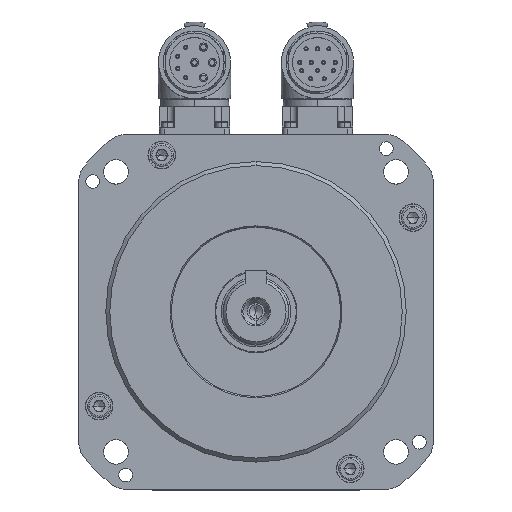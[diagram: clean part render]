
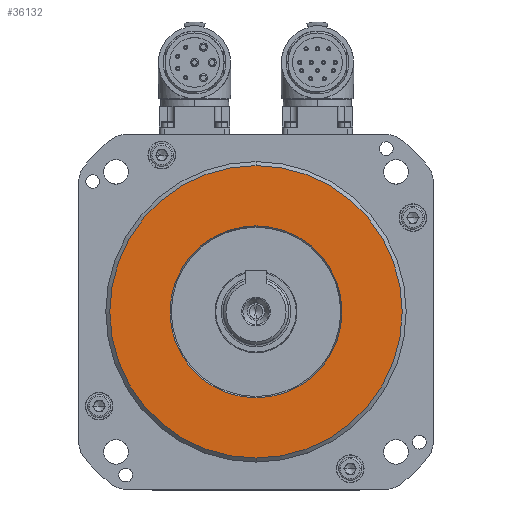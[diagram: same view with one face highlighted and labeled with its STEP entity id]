
A CAD part, top view. The second image highlights one B-rep face of the part: STEP entity #36132.
In plain terms, the highlighted planar face has unit normal (0, 0, 1).
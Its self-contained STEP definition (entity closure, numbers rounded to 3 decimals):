
#4061 = AXIS2_PLACEMENT_3D ( 'NONE', #31635, #36255, #12400 ) ;
#6401 = PLANE ( 'NONE',  #8891 ) ;
#8184 = EDGE_CURVE ( 'NONE', #49600, #24509, #43672, .T. ) ;
#8891 = AXIS2_PLACEMENT_3D ( 'NONE', #26286, #12113, #40180 ) ;
#9537 = AXIS2_PLACEMENT_3D ( 'NONE', #17246, #50964, #17647 ) ;
#9632 = ORIENTED_EDGE ( 'NONE', *, *, #36917, .T. ) ;
#9707 = DIRECTION ( 'NONE',  ( 0., -1., 0. ) ) ;
#9792 = ORIENTED_EDGE ( 'NONE', *, *, #41366, .F. ) ;
#12113 = DIRECTION ( 'NONE',  ( 0., 0., 1. ) ) ;
#12400 = DIRECTION ( 'NONE',  ( 0., -1., 0. ) ) ;
#17246 = CARTESIAN_POINT ( 'NONE',  ( 0., 0., 66.8 ) ) ;
#17647 = DIRECTION ( 'NONE',  ( 0., -1., 0. ) ) ;
#18810 = DIRECTION ( 'NONE',  ( 0., 0., 1. ) ) ;
#24449 = CARTESIAN_POINT ( 'NONE',  ( 0., -31.481, 66.8 ) ) ;
#24509 = VERTEX_POINT ( 'NONE', #58649 ) ;
#26286 = CARTESIAN_POINT ( 'NONE',  ( 0., 0., 66.8 ) ) ;
#31035 = DIRECTION ( 'NONE',  ( 0., -1., 0. ) ) ;
#31635 = CARTESIAN_POINT ( 'NONE',  ( 0., 0., 66.8 ) ) ;
#33602 = CARTESIAN_POINT ( 'NONE',  ( 0., 0., 66.8 ) ) ;
#34183 = ORIENTED_EDGE ( 'NONE', *, *, #8184, .T. ) ;
#35141 = EDGE_LOOP ( 'NONE', ( #9792, #55901 ) ) ;
#36132 = ADVANCED_FACE ( 'NONE', ( #57239, #52703 ), #6401, .T. ) ;
#36255 = DIRECTION ( 'NONE',  ( 0., 0., 1. ) ) ;
#36917 = EDGE_CURVE ( 'NONE', #24509, #49600, #54170, .T. ) ;
#37181 = EDGE_LOOP ( 'NONE', ( #34183, #9632 ) ) ;
#39553 = CARTESIAN_POINT ( 'NONE',  ( 0., 53.54, 66.8 ) ) ;
#40180 = DIRECTION ( 'NONE',  ( 0., -1., 0. ) ) ;
#40688 = AXIS2_PLACEMENT_3D ( 'NONE', #44904, #59464, #31035 ) ;
#41366 = EDGE_CURVE ( 'NONE', #43056, #56901, #50834, .T. ) ;
#41598 = EDGE_CURVE ( 'NONE', #56901, #43056, #46276, .T. ) ;
#43056 = VERTEX_POINT ( 'NONE', #49288 ) ;
#43672 = CIRCLE ( 'NONE', #9537, 53.54 ) ;
#44904 = CARTESIAN_POINT ( 'NONE',  ( 0., 0., 66.8 ) ) ;
#46276 = CIRCLE ( 'NONE', #40688, 31.481 ) ;
#49288 = CARTESIAN_POINT ( 'NONE',  ( 0., 31.481, 66.8 ) ) ;
#49600 = VERTEX_POINT ( 'NONE', #39553 ) ;
#50048 = AXIS2_PLACEMENT_3D ( 'NONE', #33602, #18810, #9707 ) ;
#50834 = CIRCLE ( 'NONE', #50048, 31.481 ) ;
#50964 = DIRECTION ( 'NONE',  ( 0., 0., 1. ) ) ;
#52703 = FACE_OUTER_BOUND ( 'NONE', #37181, .T. ) ;
#54170 = CIRCLE ( 'NONE', #4061, 53.54 ) ;
#55901 = ORIENTED_EDGE ( 'NONE', *, *, #41598, .F. ) ;
#56901 = VERTEX_POINT ( 'NONE', #24449 ) ;
#57239 = FACE_BOUND ( 'NONE', #35141, .T. ) ;
#58649 = CARTESIAN_POINT ( 'NONE',  ( 0., -53.54, 66.8 ) ) ;
#59464 = DIRECTION ( 'NONE',  ( 0., 0., 1. ) ) ;
